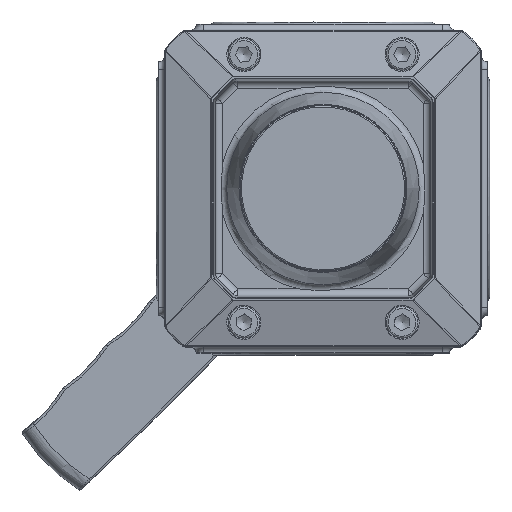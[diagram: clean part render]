
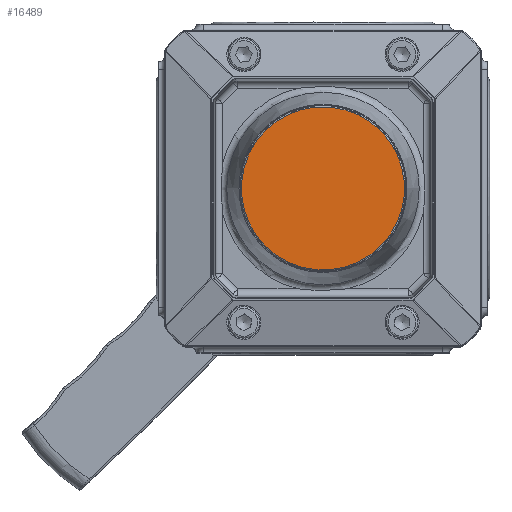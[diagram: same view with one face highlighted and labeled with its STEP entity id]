
A CAD part, top view. The second image highlights one B-rep face of the part: STEP entity #16489.
In plain terms, the highlighted planar face has unit normal (0, 0, 1).
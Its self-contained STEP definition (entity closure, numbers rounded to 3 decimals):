
#2104=PLANE('',#17627);
#2450=FACE_OUTER_BOUND('',#3498,.T.);
#3498=EDGE_LOOP('',(#11685));
#6512=CIRCLE('',#17625,33.5);
#7529=VERTEX_POINT('',#24995);
#9068=EDGE_CURVE('',#7529,#7529,#6512,.T.);
#11685=ORIENTED_EDGE('',*,*,#9068,.T.);
#16489=ADVANCED_FACE('',(#2450),#2104,.T.);
#17625=AXIS2_PLACEMENT_3D('',#24996,#19895,#19896);
#17627=AXIS2_PLACEMENT_3D('',#24998,#19899,#19900);
#19895=DIRECTION('center_axis',(0.,0.,
1.));
#19896=DIRECTION('ref_axis',(0.088,-0.996,0.));
#19899=DIRECTION('center_axis',(0.,0.,
1.));
#19900=DIRECTION('ref_axis',(0.088,-0.996,0.));
#24995=CARTESIAN_POINT('',(-2.959,33.369,145.8));
#24996=CARTESIAN_POINT('Origin',(0.,0.,
145.8));
#24998=CARTESIAN_POINT('Origin',(1.48,-16.685,145.8));
